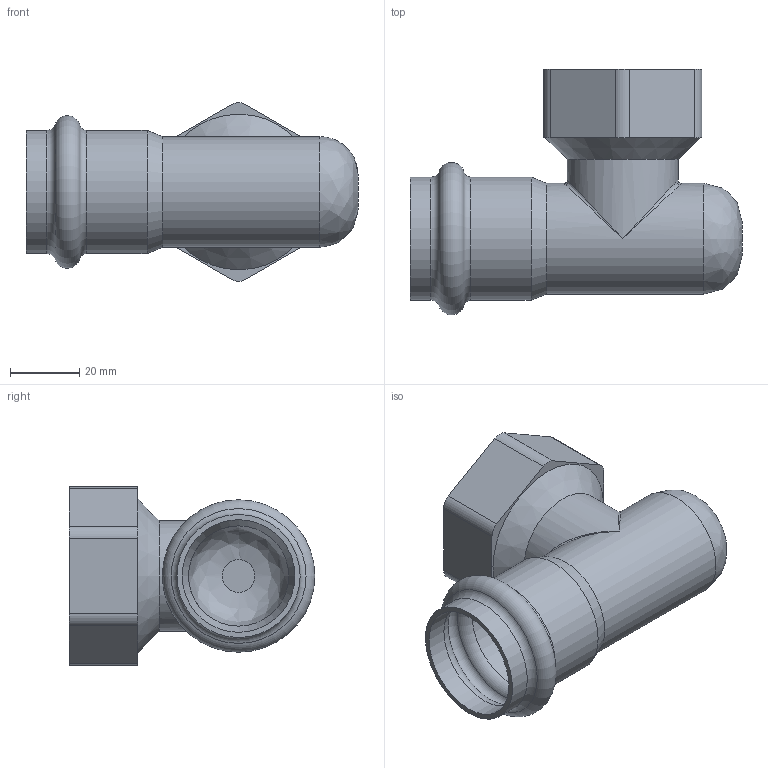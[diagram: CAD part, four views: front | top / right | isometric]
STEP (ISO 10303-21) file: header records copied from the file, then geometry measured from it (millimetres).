
FILE_DESCRIPTION(/* description */ (''),/* implementation_level */ '2;1');
FILE_NAME(/* name */ '51269030301.stp',/* time_stamp */ '2020-06-22T14:56:39+08:00',/* author */ (''),/* organization */ (''),/* preprocessor_version */ 'ST-DEVELOPER v11',/* originating_system */ 'SIEMENS PLM Software NX 7.5',/* authorisation */ '');
FILE_SCHEMA (('CONFIG_CONTROL_DESIGN'));
Length unit declared in the file: millimetre
Products named in the file (1): Admi4F60b4aa
Bounding box: 96 x 71.04 x 51.65 mm (x, y, z)
Volume: 29657.9 mm3; surface area: 29994.4 mm2
Topology: 1 solids, 1 shells, 43 faces, 100 edges, 56 vertices
Faces by surface type: cylinder 15, plane 13, torus 6, cone 5, bspline 4
Full cylindrical faces by diameter (mm): 29 x1, 29.6 x1, 32 x2, 32.6 x2, 35.6 x2, 38.95 x1
Entity records: 1314 total; most frequent: CARTESIAN_POINT 370, DIRECTION 190, ORIENTED_EDGE 140, AXIS2_PLACEMENT_3D 82, EDGE_LOOP 70, EDGE_CURVE 70, VERTEX_POINT 54, FACE_BOUND 52
